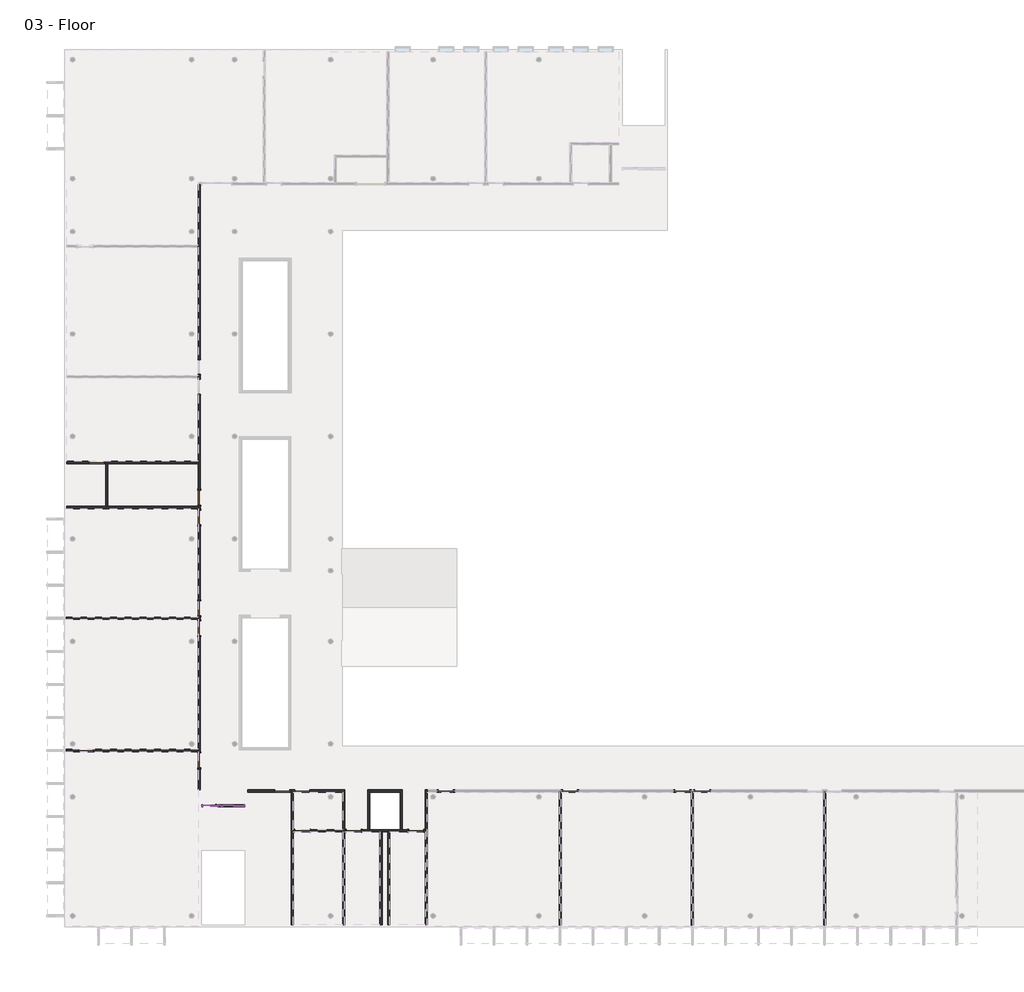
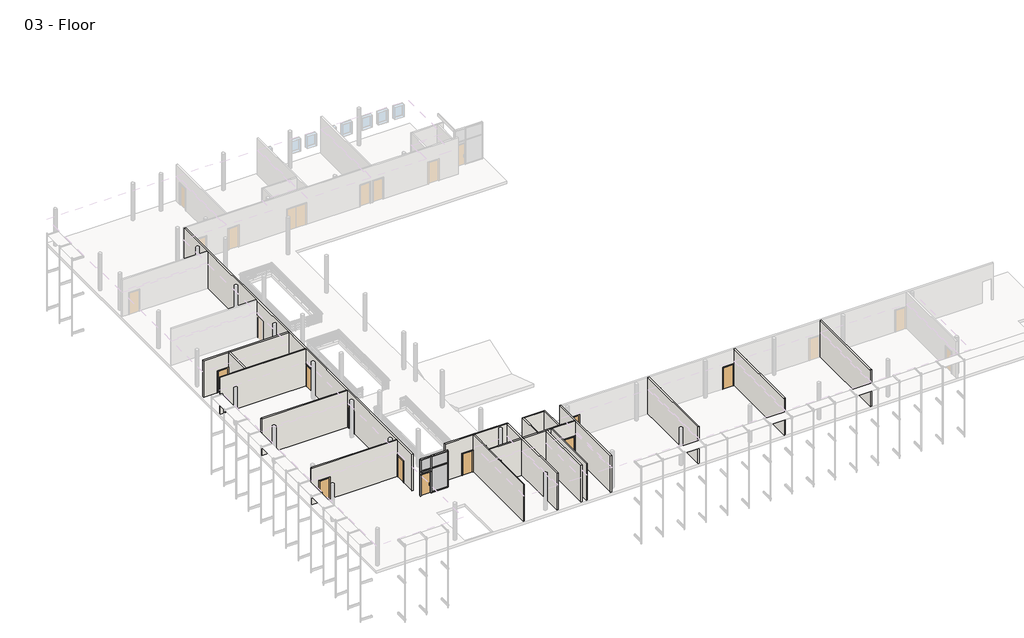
# One storey, part 1 of 4: 19 walls, 18 members, 17 doors, 4 plates.
"""IFC4 building model written with IfcOpenShell, lengths in millimetres."""

import ifcopenshell
import ifcopenshell.guid

model = None  # the IFC model being written
_history = None  # IfcOwnerHistory: only IFC2X3 demands one
_inside = {}  # id of a spatial element -> (the spatial element, [elements in it])
_under = {}  # id of a project, library or spatial element -> (it, [spatial elements below it])
_declared = {}  # id of a project -> (the project, [libraries it declares])
_typed = {}  # id of a type object -> (the type object, [elements of that type])
_made_of = {}  # id of a material, layer set ... -> (it, [elements and type objects made of it])


def new_model(schema):
    """Start an empty IFC model of exactly this schema.

    Asked for "IFC4X3", IfcOpenShell would pick the latest addendum, in which some entities
    have other attributes; the version numbers below select the first issue.
    IFC2X3 requires an IfcOwnerHistory on every rooted entity: one is made here for all.
    """
    global model, _history
    if schema == "IFC4X3":
        model = ifcopenshell.file(schema_version=(4, 3, 0, 0))
    else:
        model = ifcopenshell.file(schema=schema)
    _inside.clear()
    _under.clear()
    _declared.clear()
    _typed.clear()
    _made_of.clear()
    _history = None
    if model.schema == "IFC2X3":
        org = make("IfcOrganization", Name="unknown")
        user = make(
            "IfcPersonAndOrganization",
            ThePerson=make("IfcPerson", FamilyName="unknown"),
            TheOrganization=org,
        )
        app = make(
            "IfcApplication",
            ApplicationDeveloper=org,
            Version="unknown",
            ApplicationFullName="unknown",
            ApplicationIdentifier="unknown",
        )
        _history = make(
            "IfcOwnerHistory",
            OwningUser=user,
            OwningApplication=app,
            ChangeAction="ADDED",
            CreationDate=0,
        )
    return model


def make(cls, **values):
    """One entity of the class cls with the attributes given. An attribute that is None is left unset."""
    return model.create_entity(
        cls, **{name: value for name, value in values.items() if value is not None}
    )


def rooted(cls, **values):
    """An entity with a GlobalId (a new one), such as an element, a storey or a relation."""
    return make(cls, GlobalId=ifcopenshell.guid.new(), OwnerHistory=_history, **values)


def si_unit(unit_type, name, prefix=None):
    """IfcSIUnit, for example si_unit("LENGTHUNIT", "METRE", prefix="MILLI")."""
    return make("IfcSIUnit", UnitType=unit_type, Prefix=prefix, Name=name)


def assignment(units):
    """IfcUnitAssignment: the units of a project."""
    return None if units is None else make("IfcUnitAssignment", Units=units)


def point(xyz):
    """IfcCartesianPoint."""
    return None if xyz is None else make("IfcCartesianPoint", Coordinates=xyz)


def direction(xyz):
    """IfcDirection."""
    return None if xyz is None else make("IfcDirection", DirectionRatios=xyz)


def frame(location, z_axis=None, x_axis=None):
    """IfcAxis2Placement3D, a coordinate frame: its origin and axes. An axis left out is left unset."""
    return make(
        "IfcAxis2Placement3D",
        Location=point(location),
        Axis=direction(z_axis),
        RefDirection=direction(x_axis),
    )


def origin():
    """The frame at (0, 0, 0) with its axes left unset."""
    return frame((0.0, 0.0, 0.0))


def origin_with_axes():
    """The frame at (0, 0, 0) with the z axis (0, 0, 1) and the x axis (1, 0, 0) written out."""
    return frame((0.0, 0.0, 0.0), z_axis=(0.0, 0.0, 1.0), x_axis=(1.0, 0.0, 0.0))


def place(relative_to, where):
    """IfcLocalPlacement: puts the frame where relative to a parent placement (None: the world)."""
    return make(
        "IfcLocalPlacement", PlacementRelTo=relative_to, RelativePlacement=where
    )


def context(
    kind, dimensions, precision=None, world=None, true_north=None, identifier=None
):
    """IfcGeometricRepresentationContext, for example the 3D "Model" context."""
    return make(
        "IfcGeometricRepresentationContext",
        ContextIdentifier=identifier,
        ContextType=kind,
        CoordinateSpaceDimension=dimensions,
        Precision=precision,
        WorldCoordinateSystem=world,
        TrueNorth=true_north,
    )


def project(units=None, contexts=None):
    """IfcProject with its units and contexts."""
    return rooted(
        "IfcProject",
        Name="project",
        RepresentationContexts=contexts,
        UnitsInContext=assignment(units),
    )


def spatial(cls, under=None, at=None, **own):
    """A site, building, storey or space (cls), placed at a placement, below another one or the project."""
    s = rooted(cls, ObjectPlacement=at, **own)
    if under is not None:
        _under.setdefault(under.id(), (under, []))[1].append(s)
    return s


def polyline(points):
    """IfcPolyline through the points."""
    return make("IfcPolyline", Points=[point(p) for p in points])


def outline(outer, holes=None, kind="AREA"):
    """IfcArbitraryClosedProfileDef: a profile drawn as a closed curve; with holes, ...WithVoids."""
    if holes is None:
        return make("IfcArbitraryClosedProfileDef", ProfileType=kind, OuterCurve=outer)
    return make(
        "IfcArbitraryProfileDefWithVoids",
        ProfileType=kind,
        OuterCurve=outer,
        InnerCurves=holes,
    )


def extrude(swept, where, along, depth):
    """IfcExtrudedAreaSolid: the profile swept, set in the frame where, extruded along a direction by depth."""
    return make(
        "IfcExtrudedAreaSolid",
        SweptArea=swept,
        Position=where,
        ExtrudedDirection=direction(along),
        Depth=depth,
    )


def faces_of(points, faces, orient=None, outer=None):
    """IfcFace entities. A face is a list of loops; a loop is a list of indices into points, from 0.

    orient and outer hold one flag for each loop. By default every Orientation is true, the
    first loop of a face is its IfcFaceOuterBound and the others are IfcFaceBound.
    """
    made = []
    for i, loops in enumerate(faces):
        bounds = []
        for j, loop in enumerate(loops):
            is_outer = j == 0 if outer is None else outer[i][j]
            bounds.append(
                make(
                    "IfcFaceOuterBound" if is_outer else "IfcFaceBound",
                    Bound=make("IfcPolyLoop", Polygon=[points[k] for k in loop]),
                    Orientation=True if orient is None else orient[i][j],
                )
            )
        made.append(make("IfcFace", Bounds=bounds))
    return made


def faceted_brep(points, faces, orient=None, outer=None, voids=None):
    """IfcFacetedBrep: a solid bounded by flat faces; with voids (closed shells), ...WithVoids."""
    shared = [point(p) for p in points]
    hull = make("IfcClosedShell", CfsFaces=faces_of(shared, faces, orient, outer))
    if voids is None:
        return make("IfcFacetedBrep", Outer=hull)
    return make(
        "IfcFacetedBrepWithVoids",
        Outer=hull,
        Voids=[
            make(cls, CfsFaces=faces_of(shared, fs, o, b)) for cls, fs, o, b in voids
        ],
    )


def shape(context_of_items, identifier, shape_type, items):
    """IfcShapeRepresentation: the items that make up one representation, for example the "Body"."""
    return make(
        "IfcShapeRepresentation",
        ContextOfItems=context_of_items,
        RepresentationIdentifier=identifier,
        RepresentationType=shape_type,
        Items=items,
    )


def source(mapping_origin, context_of_items, identifier, shape_type, items):
    """IfcRepresentationMap: a shape defined once, which mapped items show again and again."""
    return make(
        "IfcRepresentationMap",
        MappingOrigin=mapping_origin,
        MappedRepresentation=shape(context_of_items, identifier, shape_type, items),
    )


def transform(
    local_origin,
    x_axis=None,
    y_axis=None,
    z_axis=None,
    scale=None,
    scale2=None,
    scale3=None,
    uniform=True,
):
    """IfcCartesianTransformationOperator3D, or its non-uniform kind. x_axis, y_axis, z_axis: its Axis1, 2, 3."""
    if uniform:
        return make(
            "IfcCartesianTransformationOperator3D",
            Axis1=direction(x_axis),
            Axis2=direction(y_axis),
            LocalOrigin=point(local_origin),
            Scale=scale,
            Axis3=direction(z_axis),
        )
    return make(
        "IfcCartesianTransformationOperator3DnonUniform",
        Axis1=direction(x_axis),
        Axis2=direction(y_axis),
        LocalOrigin=point(local_origin),
        Scale=scale,
        Axis3=direction(z_axis),
        Scale2=scale2,
        Scale3=scale3,
    )


def mapped(mapping_source, mapping_target):
    """IfcMappedItem: shows the shape of a source again, moved by a transform."""
    return make(
        "IfcMappedItem", MappingSource=mapping_source, MappingTarget=mapping_target
    )


def made_of(thing, what):
    """Note that an element or type object is made of a material, layer set ...; save() writes the relation."""
    if what is not None:
        _made_of.setdefault(what.id(), (what, []))[1].append(thing)
    return thing


def element(
    cls,
    number,
    at=None,
    inside=None,
    cuts=None,
    type_object=None,
    material=None,
    context=None,
    identifier="Body",
    shape_type=None,
    held_by="IfcProductDefinitionShape",
    body=None,
    shapes=None,
    **own,
):
    """One element of the class cls, such as IfcWall. Its Tag is "e" and its number.

    at: its placement. inside: the storey or other place that contains it. cuts: it is an
    opening in that element (IfcRelVoidsElement). A single representation is given by context,
    identifier, shape_type and body (its items); several are given by shapes. held_by: the class
    of the entity that holds the representations. save() writes the other relations.
    """
    e = rooted(cls, Tag="e%d" % number, ObjectPlacement=at, **own)
    if body is not None:
        shapes = [shape(context, identifier, shape_type, body)]
    if shapes is not None:
        e.Representation = make(held_by, Representations=shapes)
    if inside is not None:
        _inside.setdefault(inside.id(), (inside, []))[1].append(e)
    if cuts is not None:
        rooted(
            "IfcRelVoidsElement", RelatingBuildingElement=cuts, RelatedOpeningElement=e
        )
    if type_object is not None:
        _typed.setdefault(type_object.id(), (type_object, []))[1].append(e)
    return made_of(e, material)


def aggregate(whole, parts):
    """IfcRelAggregates: a whole, such as a stair, and the parts it consists of."""
    return rooted("IfcRelAggregates", RelatingObject=whole, RelatedObjects=parts)


def save(model, path):
    """Write the relations noted so far, then the file.

    IfcRelAggregates (storeys below a building ...), IfcRelContainedInSpatialStructure (elements
    in a storey), IfcRelDefinesByType, IfcRelAssociatesMaterial and IfcRelDeclares: one each for
    every whole, place, type object, material and project.
    """
    for whole, parts in _under.values():
        aggregate(whole, parts)
    for where, things in _inside.values():
        rooted(
            "IfcRelContainedInSpatialStructure",
            RelatedElements=things,
            RelatingStructure=where,
        )
    for kind, things in _typed.values():
        rooted("IfcRelDefinesByType", RelatedObjects=things, RelatingType=kind)
    for what, things in _made_of.values():
        rooted("IfcRelAssociatesMaterial", RelatedObjects=things, RelatingMaterial=what)
    for by, libraries in _declared.values():
        rooted("IfcRelDeclares", RelatingContext=by, RelatedDefinitions=libraries)
    model.write(path)


def curtain_wall_sgl_glass_curtain_wall_sgl_glass_c2d4b377(model_context):
    return source(origin(), model_context, "Body", "SweptSolid", [
        extrude(outline(polyline([(-355.6, 12.7), (-355.6, -38.1), (-381.0, -38.1), (-381.0, 12.7), (-355.6, 12.7)])), frame((0.0, 0.0, 762.0), z_axis=(0.0, 0.0, 1.0), x_axis=(1.0, 0.0, 0.0)), (0.0, 0.0, 1.0), 228.6),
        extrude(outline(polyline([(-381.0, -101.6), (-381.0, -50.8), (-355.6, -50.8), (-355.6, -101.6), (-381.0, -101.6)])), frame((0.0, 0.0, 762.0), z_axis=(0.0, 0.0, 1.0), x_axis=(1.0, 0.0, 0.0)), (0.0, 0.0, 1.0), 228.6),
        extrude(outline(polyline([(457.2, -50.8), (-457.2, -50.8), (-457.2, -38.1), (457.2, -38.1), (457.2, -50.8)])), origin_with_axes(), (0.0, 0.0, 1.0), 2133.6),
    ])


def door_a1797ceb(model_context):
    return source(origin(), model_context, "Body", "SweptSolid", [
        extrude(outline(polyline([(2209.8, -533.4), (0.0, -533.4), (0.0, -457.2), (2133.6, -457.2), (2133.6, 457.2), (0.0, 457.2), (0.0, 533.4), (2209.8, 533.4), (2209.8, -533.4)])), frame((0.0, 63.5, 0.0), z_axis=(0.0, 1.0, 0.0), x_axis=(0.0, 0.0, 1.0)), (0.0, 0.0, 1.0), 25.4),
        extrude(outline(polyline([(2209.8, 533.4), (2209.8, -533.4), (0.0, -533.4), (0.0, -457.2), (2133.6, -457.2), (2133.6, 457.2), (0.0, 457.2), (0.0, 533.4), (2209.8, 533.4)])), frame((0.0, -88.9, 0.0), z_axis=(0.0, 1.0, 0.0), x_axis=(0.0, 0.0, 1.0)), (0.0, 0.0, 1.0), 25.4),
        extrude(outline(polyline([(457.2, 12.7), (-457.2, 12.7), (-457.2, 63.5), (457.2, 63.5), (457.2, 12.7)])), origin_with_axes(), (0.0, 0.0, 1.0), 2133.6),
    ])


def door_a3eb833a(model_context):
    return source(origin(), model_context, "Body", "SweptSolid", [
        extrude(outline(polyline([(2209.8, -533.4), (0.0, -533.4), (0.0, -457.2), (2133.6, -457.2), (2133.6, 457.2), (0.0, 457.2), (0.0, 533.4), (2209.8, 533.4), (2209.8, -533.4)])), frame((0.0, -88.9, 0.0), z_axis=(0.0, 1.0, 0.0), x_axis=(0.0, 0.0, 1.0)), (0.0, 0.0, 1.0), 25.4),
        extrude(outline(polyline([(2209.8, 533.4), (2209.8, -533.4), (0.0, -533.4), (0.0, -457.2), (2133.6, -457.2), (2133.6, 457.2), (0.0, 457.2), (0.0, 533.4), (2209.8, 533.4)])), frame((0.0, 63.5, 0.0), z_axis=(0.0, 1.0, 0.0), x_axis=(0.0, 0.0, 1.0)), (0.0, 0.0, 1.0), 25.4),
        extrude(outline(polyline([(457.2, -12.7), (457.2, -63.5), (-457.2, -63.5), (-457.2, -12.7), (457.2, -12.7)])), origin_with_axes(), (0.0, 0.0, 1.0), 2133.6),
    ])


def member_2b49869a(model_context):
    return source(origin(), model_context, "Body", "SweptSolid", [
        extrude(outline(polyline([(31.75, 63.5), (31.75, -63.5), (-31.75, -63.5), (-31.75, 63.5), (31.75, 63.5)])), frame((0.0, 0.0, -1219.2), z_axis=(0.0, 0.0, 1.0), x_axis=(1.0, 0.0, 0.0)), (0.0, 0.0, 1.0), 1219.2),
    ])


def member_75074519(model_context):
    return source(origin(), model_context, "Body", "SweptSolid", [
        extrude(outline(polyline([(0.0, 63.5), (0.0, -63.5), (-63.5, -63.5), (-63.5, 63.5), (0.0, 63.5)])), frame((0.0, 0.0, -1219.2), z_axis=(0.0, 0.0, 1.0), x_axis=(1.0, 0.0, 0.0)), (0.0, 0.0, 1.0), 1219.2),
    ])


def member_6186cc23(model_context):
    return source(origin(), model_context, "Body", "SweptSolid", [
        extrude(outline(polyline([(31.75, 63.5), (31.75, -63.5), (-31.75, -63.5), (-31.75, 63.5), (31.75, 63.5)])), frame((0.0, 0.0, -2165.35), z_axis=(0.0, 0.0, 1.0), x_axis=(1.0, 0.0, 0.0)), (0.0, 0.0, 1.0), 2165.35),
    ])


def member_5d67b9fc(model_context):
    return source(origin(), model_context, "Body", "SweptSolid", [
        extrude(outline(polyline([(31.75, 63.5), (31.75, -63.5), (-31.75, -63.5), (-31.75, 63.5), (31.75, 63.5)])), frame((0.0, 0.0, -273.05), z_axis=(0.0, 0.0, 1.0), x_axis=(1.0, 0.0, 0.0)), (0.0, 0.0, 1.0), 273.05),
    ])


def member_c327c56d(model_context):
    return source(origin(), model_context, "Body", "SweptSolid", [
        extrude(outline(polyline([(0.0, 63.5), (0.0, -63.5), (-63.5, -63.5), (-63.5, 63.5), (0.0, 63.5)])), frame((0.0, 0.0, -273.05), z_axis=(0.0, 0.0, 1.0), x_axis=(1.0, 0.0, 0.0)), (0.0, 0.0, 1.0), 273.05),
    ])


def member_a50b3cda(model_context):
    return source(origin(), model_context, "Body", "SweptSolid", [
        extrude(outline(polyline([(0.0, 63.5), (0.0, -63.5), (-63.5, -63.5), (-63.5, 63.5), (0.0, 63.5)])), frame((0.0, 0.0, -2165.35), z_axis=(0.0, 0.0, 1.0), x_axis=(1.0, 0.0, 0.0)), (0.0, 0.0, 1.0), 2165.35),
    ])


def member_410c6227(model_context):
    return source(origin(), model_context, "Body", "SweptSolid", [
        extrude(outline(polyline([(31.75, 63.5), (31.75, -63.5), (-31.75, -63.5), (-31.75, 63.5), (31.75, 63.5)])), frame((0.0, 0.0, -914.4), z_axis=(0.0, 0.0, 1.0), x_axis=(1.0, 0.0, 0.0)), (0.0, 0.0, 1.0), 914.4),
    ])


def member_73c23c35(model_context):
    return source(origin(), model_context, "Body", "SweptSolid", [
        extrude(outline(polyline([(0.0, 63.5), (0.0, -63.5), (-63.5, -63.5), (-63.5, 63.5), (0.0, 63.5)])), frame((0.0, 0.0, -914.4), z_axis=(0.0, 0.0, 1.0), x_axis=(1.0, 0.0, 0.0)), (0.0, 0.0, 1.0), 914.4),
    ])


def member_bcb6a316(model_context):
    return source(origin(), model_context, "Body", "SweptSolid", [
        extrude(outline(polyline([(0.0, 63.5), (0.0, -63.5), (-63.5, -63.5), (-63.5, 63.5), (0.0, 63.5)])), frame((0.0, 0.0, -1257.3), z_axis=(0.0, 0.0, 1.0), x_axis=(1.0, 0.0, 0.0)), (0.0, 0.0, 1.0), 1257.3),
    ])


def member_d3323a85(model_context):
    return source(origin(), model_context, "Body", "SweptSolid", [
        extrude(outline(polyline([(0.0, 63.5), (0.0, -63.5), (-63.5, -63.5), (-63.5, 63.5), (0.0, 63.5)])), frame((0.0, 0.0, -279.4), z_axis=(0.0, 0.0, 1.0), x_axis=(1.0, 0.0, 0.0)), (0.0, 0.0, 1.0), 279.4),
    ])


def member_7bd2cd2c(model_context):
    return source(origin(), model_context, "Body", "SweptSolid", [
        extrude(outline(polyline([(31.75, 63.5), (31.75, -63.5), (-31.75, -63.5), (-31.75, 63.5), (31.75, 63.5)])), frame((0.0, 0.0, -1257.3), z_axis=(0.0, 0.0, 1.0), x_axis=(1.0, 0.0, 0.0)), (0.0, 0.0, 1.0), 1257.3),
    ])


def member_6be37683(model_context):
    return source(origin(), model_context, "Body", "SweptSolid", [
        extrude(outline(polyline([(31.75, 63.5), (31.75, -63.5), (-31.75, -63.5), (-31.75, 63.5), (31.75, 63.5)])), frame((0.0, 0.0, -279.4), z_axis=(0.0, 0.0, 1.0), x_axis=(1.0, 0.0, 0.0)), (0.0, 0.0, 1.0), 279.4),
    ])


def system_panel_glazed_8dc8626f(model_context):
    return source(origin(), model_context, "Body", "SweptSolid", [
        extrude(outline(polyline([(457.2, -44.45), (-457.2, -44.45), (-457.2, -19.05), (457.2, -19.05), (457.2, -44.45)])), origin_with_axes(), (0.0, 0.0, 1.0), 209.55),
    ])


def system_panel_glazed_2e5f6ce9(model_context):
    return source(origin(), model_context, "Body", "SweptSolid", [
        extrude(outline(polyline([(457.2, -44.45), (-457.2, -44.45), (-457.2, -19.05), (457.2, -19.05), (457.2, -44.45)])), origin_with_axes(), (0.0, 0.0, 1.0), 1123.95),
    ])


def system_panel_glazed_c516a964(model_context):
    return source(origin(), model_context, "Body", "SweptSolid", [
        extrude(outline(polyline([(0.0, -768.35), (0.0, 488.95), (0.0, 768.35), (2101.85, 768.35), (2343.15, 768.35), (2343.15, 488.95), (2343.15, -768.35), (2101.85, -768.35), (0.0, -768.35)])), frame((0.0, -44.45, 0.0), z_axis=(0.0, 1.0, 0.0), x_axis=(0.0, 0.0, 1.0)), (0.0, 0.0, 1.0), 25.4),
    ])


def system_panel_glazed_290e85bf(model_context):
    return source(origin(), model_context, "Body", "SweptSolid", [
        extrude(outline(polyline([(0.0, -768.35), (0.0, 488.95), (0.0, 768.35), (1123.95, 768.35), (1123.95, 488.95), (1123.95, -768.35), (0.0, -768.35)])), frame((0.0, -44.45, 0.0), z_axis=(0.0, 1.0, 0.0), x_axis=(0.0, 0.0, 1.0)), (0.0, 0.0, 1.0), 25.4),
    ])


model = new_model("IFC4")

# Units and contexts
model_context = context("Model", 3, world=origin())
ifc_project = project(units=[si_unit("LENGTHUNIT", "METRE", prefix="MILLI")], contexts=[model_context])

# Site, building, storey
site = spatial("IfcSite", under=ifc_project)
building = spatial("IfcBuilding", under=site)
storey = spatial("IfcBuildingStorey", under=building, Name="03 - Floor", Elevation=7315.2)

# Doors
placement = place(None, origin())
curtain_wall_sgl_glass_curtain_wall_sgl_glass_shape = curtain_wall_sgl_glass_curtain_wall_sgl_glass_c2d4b377(model_context)
element("IfcDoor", 1, ObjectType="Curtain Wall Sgl Glass : Curtain Wall Sgl Glass", at=placement, inside=storey, context=model_context, shape_type="MappedRepresentation", body=[
    mapped(curtain_wall_sgl_glass_curtain_wall_sgl_glass_shape, transform((9081.4207476, 7356.4, 7315.2), x_axis=(-1.0, 0.0, 0.0), y_axis=(0.0, -1.0, 0.0), z_axis=(0.0, 0.0, 1.0))),
])
door_shape = door_a1797ceb(model_context)
element("IfcDoor", 2, ObjectType="Single-Flush : 36\" x 84\"", at=placement, inside=storey, context=model_context, shape_type="MappedRepresentation", body=[
    mapped(door_shape, transform((14732.9207476, 5832.4, 7315.2), x_axis=(-1.0, 0.0, 0.0), y_axis=(0.0, -1.0, 0.0), z_axis=(0.0, 0.0, 1.0))),
])
element("IfcDoor", 3, ObjectType="Single-Flush : 36\" x 84\"", at=placement, inside=storey, context=model_context, shape_type="MappedRepresentation", body=[
    mapped(door_shape, transform((17907.9207476, 5832.4, 7315.2), x_axis=(-1.0, 0.0, 0.0), y_axis=(0.0, -1.0, 0.0), z_axis=(0.0, 0.0, 1.0))),
])
element("IfcDoor", 4, ObjectType="Single-Flush : 36\" x 84\"", at=placement, inside=storey, context=model_context, shape_type="MappedRepresentation", body=[
    mapped(door_shape, transform((8421.0207476, 25085.6, 7315.2), x_axis=(0.0, 1.0, 0.0), y_axis=(-1.0, 0.0, 0.0), z_axis=(0.0, 0.0, 1.0))),
])
element("IfcDoor", 5, ObjectType="Single-Flush : 36\" x 84\"", at=placement, inside=storey, context=model_context, shape_type="MappedRepresentation", body=[
    mapped(door_shape, transform((8421.0207476, 18278.4, 7315.2), x_axis=(0.0, 1.0, 0.0), y_axis=(-1.0, 0.0, 0.0), z_axis=(0.0, 0.0, 1.0))),
])
element("IfcDoor", 6, ObjectType="Single-Flush : 36\" x 84\"", at=placement, inside=storey, context=model_context, shape_type="MappedRepresentation", body=[
    mapped(door_shape, transform((1448.7207476, 10760.0, 7315.2), x_axis=(-1.0, 0.0, 0.0), y_axis=(0.0, -1.0, 0.0), z_axis=(0.0, 0.0, 1.0))),
])
element("IfcDoor", 7, ObjectType="Single-Flush : 36\" x 84\"", at=placement, inside=storey, context=model_context, shape_type="MappedRepresentation", body=[
    mapped(door_shape, transform((8421.0207476, 10150.4, 7315.2), x_axis=(0.0, 1.0, 0.0), y_axis=(-1.0, 0.0, 0.0), z_axis=(0.0, 0.0, 1.0))),
])
element("IfcDoor", 8, ObjectType="Single-Flush : 36\" x 84\"", at=placement, inside=storey, context=model_context, shape_type="MappedRepresentation", body=[
    mapped(door_shape, transform((14732.9207476, 8270.8, 7315.2), x_axis=(-1.0, 0.0, 0.0), y_axis=(0.0, -1.0, 0.0), z_axis=(0.0, 0.0, 1.0))),
])
element("IfcDoor", 9, ObjectType="Single-Flush : 36\" x 84\"", at=placement, inside=storey, context=model_context, shape_type="MappedRepresentation", body=[
    mapped(door_shape, transform((23572.1207476, 8270.8, 7315.2), x_axis=(-1.0, 0.0, 0.0), y_axis=(0.0, -1.0, 0.0), z_axis=(0.0, 0.0, 1.0))),
])
element("IfcDoor", 10, ObjectType="Single-Flush : 36\" x 84\"", at=placement, inside=storey, context=model_context, shape_type="MappedRepresentation", body=[
    mapped(door_shape, transform((31204.8207476, 8270.8, 7315.2), x_axis=(-1.0, 0.0, 0.0), y_axis=(0.0, -1.0, 0.0), z_axis=(0.0, 0.0, 1.0))),
])
element("IfcDoor", 11, ObjectType="Single-Flush : 36\" x 84\"", at=placement, inside=storey, context=model_context, shape_type="MappedRepresentation", body=[
    mapped(door_shape, transform((39332.8207476, 8270.8, 7315.2), x_axis=(-1.0, 0.0, 0.0), y_axis=(0.0, -1.0, 0.0), z_axis=(0.0, 0.0, 1.0))),
])
door_2_shape = door_a3eb833a(model_context)
element("IfcDoor", 12, ObjectType="Single-Flush : 36\" x 84\"", at=placement, inside=storey, context=model_context, shape_type="MappedRepresentation", body=[
    mapped(door_2_shape, transform((21743.3207476, 5832.4, 7315.2), x_axis=(1.0, 0.0, 0.0), y_axis=(0.0, 1.0, 0.0), z_axis=(0.0, 0.0, 1.0))),
])
element("IfcDoor", 13, ObjectType="Single-Flush : 36\" x 84\"", at=placement, inside=storey, context=model_context, shape_type="MappedRepresentation", body=[
    mapped(door_2_shape, transform((2109.1207476, 28463.8, 7315.2), x_axis=(1.0, 0.0, 0.0), y_axis=(0.0, 1.0, 0.0), z_axis=(0.0, 0.0, 1.0))),
])
element("IfcDoor", 14, ObjectType="Single-Flush : 36\" x 84\"", at=placement, inside=storey, context=model_context, shape_type="MappedRepresentation", body=[
    mapped(door_2_shape, transform((8421.0207476, 26304.8, 7315.2), x_axis=(0.0, -1.0, 0.0), y_axis=(1.0, 0.0, 0.0), z_axis=(0.0, 0.0, 1.0))),
])
element("IfcDoor", 15, ObjectType="Single-Flush : 36\" x 84\"", at=placement, inside=storey, context=model_context, shape_type="MappedRepresentation", body=[
    mapped(door_2_shape, transform((8421.0207476, 19497.6, 7315.2), x_axis=(0.0, -1.0, 0.0), y_axis=(1.0, 0.0, 0.0), z_axis=(0.0, 0.0, 1.0))),
])
element("IfcDoor", 16, ObjectType="Single-Flush : 36\" x 84\"", at=placement, inside=storey, context=model_context, shape_type="MappedRepresentation", body=[
    mapped(door_2_shape, transform((13513.7207476, 8270.8, 7315.2), x_axis=(1.0, 0.0, 0.0), y_axis=(0.0, 1.0, 0.0), z_axis=(0.0, 0.0, 1.0))),
])
element("IfcDoor", 17, ObjectType="Single-Flush : 36\" x 84\"", at=placement, inside=storey, context=model_context, shape_type="MappedRepresentation", body=[
    mapped(door_2_shape, transform((38113.6207476, 8270.8, 7315.2), x_axis=(1.0, 0.0, 0.0), y_axis=(0.0, 1.0, 0.0), z_axis=(0.0, 0.0, 1.0))),
])

# Members
member_shape = member_2b49869a(model_context)
element("IfcMember", 18, ObjectType="Rectangular Mullion : 2.5\" x 5\" rectangular", at=placement, inside=storey, context=model_context, shape_type="MappedRepresentation", body=[
    mapped(member_shape, transform((9570.3707476, 7356.4, 9753.6), x_axis=(-1.0, 0.0, 0.0), y_axis=(0.0, 1.0, 0.0), z_axis=(0.0, 0.0, -1.0))),
])
member_2_shape = member_75074519(model_context)
element("IfcMember", 19, ObjectType="Rectangular Mullion : 2.5\" x 5\" rectangular", at=placement, inside=storey, context=model_context, shape_type="MappedRepresentation", body=[
    mapped(member_2_shape, transform((11202.3207476, 7356.4, 10972.8), x_axis=(1.0, 0.0, 0.0), y_axis=(0.0, 1.0, 0.0), z_axis=(0.0, 0.0, 1.0))),
])
element("IfcMember", 20, ObjectType="Rectangular Mullion : 2.5\" x 5\" rectangular", at=placement, inside=storey, context=model_context, shape_type="MappedRepresentation", body=[
    mapped(member_2_shape, transform((8560.7207476, 7356.4, 9753.6), x_axis=(-1.0, 0.0, 0.0), y_axis=(0.0, 1.0, 0.0), z_axis=(0.0, 0.0, -1.0))),
])
member_3_shape = member_6186cc23(model_context)
element("IfcMember", 21, ObjectType="Rectangular Mullion : 2.5\" x 5\" rectangular", at=placement, inside=storey, context=model_context, shape_type="MappedRepresentation", body=[
    mapped(member_3_shape, transform((9570.3707476, 7356.4, 7315.2), x_axis=(-1.0, 0.0, 0.0), y_axis=(0.0, 1.0, 0.0), z_axis=(0.0, 0.0, -1.0))),
])
member_4_shape = member_5d67b9fc(model_context)
element("IfcMember", 22, ObjectType="Rectangular Mullion : 2.5\" x 5\" rectangular", at=placement, inside=storey, context=model_context, shape_type="MappedRepresentation", body=[
    mapped(member_4_shape, transform((9570.3707476, 7356.4, 9480.55), x_axis=(-1.0, 0.0, 0.0), y_axis=(0.0, 1.0, 0.0), z_axis=(0.0, 0.0, -1.0))),
])
member_5_shape = member_c327c56d(model_context)
element("IfcMember", 23, ObjectType="Rectangular Mullion : 2.5\" x 5\" rectangular", at=placement, inside=storey, context=model_context, shape_type="MappedRepresentation", body=[
    mapped(member_5_shape, transform((11202.3207476, 7356.4, 9753.6), x_axis=(1.0, 0.0, 0.0), y_axis=(0.0, 1.0, 0.0), z_axis=(0.0, 0.0, 1.0))),
])
member_6_shape = member_a50b3cda(model_context)
element("IfcMember", 24, ObjectType="Rectangular Mullion : 2.5\" x 5\" rectangular", at=placement, inside=storey, context=model_context, shape_type="MappedRepresentation", body=[
    mapped(member_6_shape, transform((11202.3207476, 7356.4, 9480.55), x_axis=(1.0, 0.0, 0.0), y_axis=(0.0, 1.0, 0.0), z_axis=(0.0, 0.0, 1.0))),
])
member_7_shape = member_410c6227(model_context)
element("IfcMember", 25, ObjectType="Rectangular Mullion : 2.5\" x 5\" rectangular", at=placement, inside=storey, context=model_context, shape_type="MappedRepresentation", body=[
    mapped(member_7_shape, transform((8624.2207476, 7356.4, 9753.6), x_axis=(0.0, 0.0, 1.0), y_axis=(0.0, 1.0, 0.0), z_axis=(-1.0, 0.0, 0.0))),
])
element("IfcMember", 26, ObjectType="Rectangular Mullion : 2.5\" x 5\" rectangular", at=placement, inside=storey, context=model_context, shape_type="MappedRepresentation", body=[
    mapped(member_7_shape, transform((8624.2207476, 7356.4, 9480.55), x_axis=(0.0, 0.0, 1.0), y_axis=(0.0, 1.0, 0.0), z_axis=(-1.0, 0.0, 0.0))),
])
member_8_shape = member_73c23c35(model_context)
element("IfcMember", 27, ObjectType="Rectangular Mullion : 2.5\" x 5\" rectangular", at=placement, inside=storey, context=model_context, shape_type="MappedRepresentation", body=[
    mapped(member_8_shape, transform((8624.2207476, 7356.4, 10972.8), x_axis=(0.0, 0.0, 1.0), y_axis=(0.0, 1.0, 0.0), z_axis=(-1.0, 0.0, 0.0))),
])
element("IfcMember", 28, ObjectType="Rectangular Mullion : 2.5\" x 5\" rectangular", at=placement, inside=storey, context=model_context, shape_type="MappedRepresentation", body=[
    mapped(member_6_shape, transform((8560.7207476, 7356.4, 7315.2), x_axis=(-1.0, 0.0, 0.0), y_axis=(0.0, 1.0, 0.0), z_axis=(0.0, 0.0, -1.0))),
])
element("IfcMember", 29, ObjectType="Rectangular Mullion : 2.5\" x 5\" rectangular", at=placement, inside=storey, context=model_context, shape_type="MappedRepresentation", body=[
    mapped(member_5_shape, transform((8560.7207476, 7356.4, 9480.55), x_axis=(-1.0, 0.0, 0.0), y_axis=(0.0, 1.0, 0.0), z_axis=(0.0, 0.0, -1.0))),
])
member_9_shape = member_bcb6a316(model_context)
element("IfcMember", 30, ObjectType="Rectangular Mullion : 2.5\" x 5\" rectangular", at=placement, inside=storey, context=model_context, shape_type="MappedRepresentation", body=[
    mapped(member_9_shape, transform((11138.8207476, 7356.4, 7315.2), x_axis=(0.0, 0.0, -1.0), y_axis=(0.0, 1.0, 0.0), z_axis=(1.0, 0.0, 0.0))),
])
member_10_shape = member_d3323a85(model_context)
element("IfcMember", 31, ObjectType="Rectangular Mullion : 2.5\" x 5\" rectangular", at=placement, inside=storey, context=model_context, shape_type="MappedRepresentation", body=[
    mapped(member_10_shape, transform((9881.5207476, 7356.4, 7315.2), x_axis=(0.0, 0.0, -1.0), y_axis=(0.0, 1.0, 0.0), z_axis=(1.0, 0.0, 0.0))),
])
member_11_shape = member_7bd2cd2c(model_context)
element("IfcMember", 32, ObjectType="Rectangular Mullion : 2.5\" x 5\" rectangular", at=placement, inside=storey, context=model_context, shape_type="MappedRepresentation", body=[
    mapped(member_11_shape, transform((9881.5207476, 7356.4, 9753.6), x_axis=(0.0, 0.0, 1.0), y_axis=(0.0, 1.0, 0.0), z_axis=(-1.0, 0.0, 0.0))),
])
member_12_shape = member_6be37683(model_context)
element("IfcMember", 33, ObjectType="Rectangular Mullion : 2.5\" x 5\" rectangular", at=placement, inside=storey, context=model_context, shape_type="MappedRepresentation", body=[
    mapped(member_12_shape, transform((9602.1207476, 7356.4, 9753.6), x_axis=(0.0, 0.0, 1.0), y_axis=(0.0, 1.0, 0.0), z_axis=(-1.0, 0.0, 0.0))),
])
element("IfcMember", 34, ObjectType="Rectangular Mullion : 2.5\" x 5\" rectangular", at=placement, inside=storey, context=model_context, shape_type="MappedRepresentation", body=[
    mapped(member_9_shape, transform((9881.5207476, 7356.4, 10972.8), x_axis=(0.0, 0.0, 1.0), y_axis=(0.0, 1.0, 0.0), z_axis=(-1.0, 0.0, 0.0))),
])
element("IfcMember", 35, ObjectType="Rectangular Mullion : 2.5\" x 5\" rectangular", at=placement, inside=storey, context=model_context, shape_type="MappedRepresentation", body=[
    mapped(member_10_shape, transform((9602.1207476, 7356.4, 10972.8), x_axis=(0.0, 0.0, 1.0), y_axis=(0.0, 1.0, 0.0), z_axis=(-1.0, 0.0, 0.0))),
])

# Plates
system_panel_glazed_shape = system_panel_glazed_8dc8626f(model_context)
element("IfcPlate", 36, ObjectType="System Panel : Glazed", at=placement, inside=storey, context=model_context, shape_type="MappedRepresentation", body=[
    mapped(system_panel_glazed_shape, transform((9081.4207476, 7356.4, 9512.3), x_axis=(-1.0, 0.0, 0.0), y_axis=(0.0, -1.0, 0.0), z_axis=(0.0, 0.0, 1.0))),
])
system_panel_glazed_2_shape = system_panel_glazed_2e5f6ce9(model_context)
element("IfcPlate", 37, ObjectType="System Panel : Glazed", at=placement, inside=storey, context=model_context, shape_type="MappedRepresentation", body=[
    mapped(system_panel_glazed_2_shape, transform((9081.4207476, 7356.4, 9785.35), x_axis=(-1.0, 0.0, 0.0), y_axis=(0.0, -1.0, 0.0), z_axis=(0.0, 0.0, 1.0))),
])
system_panel_glazed_3_shape = system_panel_glazed_c516a964(model_context)
element("IfcPlate", 38, ObjectType="System Panel : Glazed", at=placement, inside=storey, context=model_context, shape_type="MappedRepresentation", body=[
    mapped(system_panel_glazed_3_shape, transform((10370.4707476, 7356.4, 7378.7), x_axis=(-1.0, 0.0, 0.0), y_axis=(0.0, -1.0, 0.0), z_axis=(0.0, 0.0, 1.0))),
])
system_panel_glazed_4_shape = system_panel_glazed_290e85bf(model_context)
element("IfcPlate", 39, ObjectType="System Panel : Glazed", at=placement, inside=storey, context=model_context, shape_type="MappedRepresentation", body=[
    mapped(system_panel_glazed_4_shape, transform((10370.4707476, 7356.4, 9785.35), x_axis=(-1.0, 0.0, 0.0), y_axis=(0.0, -1.0, 0.0), z_axis=(0.0, 0.0, 1.0))),
])

# Walls
element("IfcWall", 40, ObjectType="Generic - 5\"", at=placement, inside=storey, context=model_context, shape_type="Brep", body=[
    faceted_brep([(8357.5207476, 17821.2, 7315.2), (8357.5207476, 10823.5, 7315.2), (8357.5207476, 10696.5, 7315.2), (8357.5207476, 10607.6, 7315.2), (8357.5207476, 10607.6, 9448.8), (8357.5207476, 9693.2, 9448.8), (8357.5207476, 9693.2, 7315.2), (8357.5207476, 8334.3, 7315.2), (8357.5207476, 8334.3, 10972.8), (8357.5207476, 10696.5, 10972.8), (8357.5207476, 10823.5, 10972.8), (8357.5207476, 18824.5, 10972.8), (8357.5207476, 18951.5, 10972.8), (8357.5207476, 25631.7, 10972.8), (8357.5207476, 25758.7, 10972.8), (8357.5207476, 28400.3, 10972.8), (8357.5207476, 28527.3, 10972.8), (8357.5207476, 33658.1, 10972.8), (8357.5207476, 33785.1, 10972.8), (8357.5207476, 41684.5, 10972.8), (8357.5207476, 41811.5, 10972.8), (8357.5207476, 45545.3, 10972.8), (8357.5207476, 45545.3, 7315.2), (8357.5207476, 41811.5, 7315.2), (8357.5207476, 41684.5, 7315.2), (8357.5207476, 34788.4, 7315.2), (8357.5207476, 34788.4, 9448.8), (8357.5207476, 33874.0, 9448.8), (8357.5207476, 33874.0, 7315.2), (8357.5207476, 33785.1, 7315.2), (8357.5207476, 33658.1, 7315.2), (8357.5207476, 33569.2, 7315.2), (8357.5207476, 33569.2, 9448.8), (8357.5207476, 32654.8, 9448.8), (8357.5207476, 32654.8, 7315.2), (8357.5207476, 28527.3, 7315.2), (8357.5207476, 28400.3, 7315.2), (8357.5207476, 26762.0, 7315.2), (8357.5207476, 26762.0, 9448.8), (8357.5207476, 25847.6, 9448.8), (8357.5207476, 25847.6, 7315.2), (8357.5207476, 25758.7, 7315.2), (8357.5207476, 25631.7, 7315.2), (8357.5207476, 25542.8, 7315.2), (8357.5207476, 25542.8, 9448.8), (8357.5207476, 24628.4, 9448.8), (8357.5207476, 24628.4, 7315.2), (8357.5207476, 19954.8, 7315.2), (8357.5207476, 19954.8, 9448.8), (8357.5207476, 19040.4, 9448.8), (8357.5207476, 19040.4, 7315.2), (8357.5207476, 18951.5, 7315.2), (8357.5207476, 18824.5, 7315.2), (8357.5207476, 18735.6, 7315.2), (8357.5207476, 18735.6, 9448.8), (8357.5207476, 17821.2, 9448.8), (8484.5207476, 10607.6, 9448.8), (8484.5207476, 10607.6, 7315.2), (8484.5207476, 17821.2, 7315.2), (8484.5207476, 17821.2, 9448.8), (8484.5207476, 18735.6, 9448.8), (8484.5207476, 18735.6, 7315.2), (8484.5207476, 19040.4, 7315.2), (8484.5207476, 19040.4, 9448.8), (8484.5207476, 19954.8, 9448.8), (8484.5207476, 19954.8, 7315.2), (8484.5207476, 24628.4, 7315.2), (8484.5207476, 24628.4, 9448.8), (8484.5207476, 25542.8, 9448.8), (8484.5207476, 25542.8, 7315.2), (8484.5207476, 25847.6, 7315.2), (8484.5207476, 25847.6, 9448.8), (8484.5207476, 26762.0, 9448.8), (8484.5207476, 26762.0, 7315.2), (8484.5207476, 32654.8, 7315.2), (8484.5207476, 32654.8, 9448.8), (8484.5207476, 33569.2, 9448.8), (8484.5207476, 33569.2, 7315.2), (8484.5207476, 33874.0, 7315.2), (8484.5207476, 33874.0, 9448.8), (8484.5207476, 34788.4, 9448.8), (8484.5207476, 34788.4, 7315.2), (8484.5207476, 45545.3, 7315.2), (8484.5207476, 45545.3, 10972.8), (8484.5207476, 8334.3, 10972.8), (8484.5207476, 8334.3, 7315.2), (8484.5207476, 9693.2, 7315.2), (8484.5207476, 9693.2, 9448.8)], [[[0, 1, 2, 3, 4, 5, 6, 7, 8, 9, 10, 11, 12, 13, 14, 15, 16, 17, 18, 19, 20, 21, 22, 23, 24, 25, 26, 27, 28, 29, 30, 31, 32, 33, 34, 35, 36, 37, 38, 39, 40, 41, 42, 43, 44, 45, 46, 47, 48, 49, 50, 51, 52, 53, 54, 55]], [[56, 57, 58, 59, 60, 61, 62, 63, 64, 65, 66, 67, 68, 69, 70, 71, 72, 73, 74, 75, 76, 77, 78, 79, 80, 81, 82, 83, 84, 85, 86, 87]], [[78, 77, 31, 30, 29, 28]], [[25, 24, 23, 22, 82, 81]], [[70, 69, 43, 42, 41, 40]], [[37, 36, 35, 34, 74, 73]], [[62, 61, 53, 52, 51, 50]], [[47, 46, 66, 65]], [[58, 57, 3, 2, 1, 0]], [[86, 85, 7, 6]], [[8, 7, 85, 84]], [[21, 20, 19, 18, 17, 16, 15, 14, 13, 12, 11, 10, 9, 8, 84, 83]], [[22, 21, 83, 82]], [[79, 78, 28, 27]], [[80, 79, 27, 26]], [[81, 80, 26, 25]], [[32, 31, 77, 76]], [[33, 32, 76, 75]], [[34, 33, 75, 74]], [[71, 70, 40, 39]], [[72, 71, 39, 38]], [[73, 72, 38, 37]], [[44, 43, 69, 68]], [[45, 44, 68, 67]], [[46, 45, 67, 66]], [[63, 62, 50, 49]], [[64, 63, 49, 48]], [[65, 64, 48, 47]], [[54, 53, 61, 60]], [[55, 54, 60, 59]], [[0, 55, 59, 58]], [[4, 3, 57, 56]], [[5, 4, 56, 87]], [[6, 5, 87, 86]]]),
])
element("IfcWall", 41, ObjectType="Generic - 5\"", at=placement, inside=storey, context=model_context, shape_type="Brep", body=[
    faceted_brep([(13970.9207476, 8207.3, 7315.2), (14059.8207476, 8207.3, 7315.2), (14186.8207476, 8207.3, 7315.2), (14275.7207476, 8207.3, 7315.2), (14275.7207476, 8207.3, 9448.8), (15190.1207476, 8207.3, 9448.8), (15190.1207476, 8207.3, 7315.2), (17234.8207476, 8207.3, 7315.2), (17361.8207476, 8207.3, 7315.2), (17361.8207476, 8207.3, 10972.8), (17234.8207476, 8207.3, 10972.8), (14186.8207476, 8207.3, 10972.8), (14059.8207476, 8207.3, 10972.8), (11405.5207476, 8207.3, 10972.8), (11405.5207476, 8207.3, 7315.2), (13056.5207476, 8207.3, 7315.2), (13056.5207476, 8207.3, 9448.8), (13970.9207476, 8207.3, 9448.8), (14275.7207476, 8334.3, 9448.8), (14275.7207476, 8334.3, 7315.2), (13970.9207476, 8334.3, 7315.2), (13970.9207476, 8334.3, 9448.8), (13056.5207476, 8334.3, 9448.8), (13056.5207476, 8334.3, 7315.2), (11405.5207476, 8334.3, 7315.2), (11405.5207476, 8334.3, 10972.8), (17361.8207476, 8334.3, 10972.8), (17361.8207476, 8334.3, 7315.2), (15190.1207476, 8334.3, 7315.2), (15190.1207476, 8334.3, 9448.8)], [[[0, 1, 2, 3, 4, 5, 6, 7, 8, 9, 10, 11, 12, 13, 14, 15, 16, 17]], [[18, 19, 20, 21, 22, 23, 24, 25, 26, 27, 28, 29]], [[20, 19, 3, 2, 1, 0]], [[15, 14, 24, 23]], [[28, 27, 8, 7, 6]], [[13, 12, 11, 10, 9, 26, 25]], [[9, 8, 27, 26]], [[14, 13, 25, 24]], [[21, 20, 0, 17]], [[22, 21, 17, 16]], [[23, 22, 16, 15]], [[4, 3, 19, 18]], [[5, 4, 18, 29]], [[6, 5, 29, 28]]]),
])
element("IfcWall", 42, ObjectType="Generic - 5\"", at=placement, inside=storey, context=model_context, shape_type="Brep", body=[
    faceted_brep([(14186.8207476, 53.9, 7315.2), (14186.8207476, 5768.9, 7315.2), (14186.8207476, 5895.9, 7315.2), (14186.8207476, 8207.3, 7315.2), (14186.8207476, 8207.3, 10972.8), (14186.8207476, 5895.9, 10972.8), (14186.8207476, 5768.9, 10972.8), (14186.8207476, 53.9, 10972.8), (14059.8207476, 53.9, 7315.2), (14059.8207476, 53.9, 10972.8), (14059.8207476, 8207.3, 10972.8), (14059.8207476, 8207.3, 7315.2)], [[[0, 1, 2, 3, 4, 5, 6, 7]], [[8, 9, 10, 11]], [[3, 2, 1, 0, 8, 11]], [[7, 6, 5, 4, 10, 9]], [[0, 7, 9, 8]], [[4, 3, 11, 10]]]),
])
element("IfcWall", 43, ObjectType="Generic - 5\"", at=placement, inside=storey, context=model_context, shape_type="Brep", body=[
    faceted_brep([(17361.8207476, 53.9, 7315.2), (17361.8207476, 5768.9, 7315.2), (17361.8207476, 5895.9, 7315.2), (17361.8207476, 8207.3, 7315.2), (17361.8207476, 8207.3, 10972.8), (17361.8207476, 5895.9, 10972.8), (17361.8207476, 5768.9, 10972.8), (17361.8207476, 53.9, 10972.8), (17234.8207476, 53.9, 7315.2), (17234.8207476, 53.9, 10972.8), (17234.8207476, 5768.9, 10972.8), (17234.8207476, 5895.9, 10972.8), (17234.8207476, 8207.3, 10972.8), (17234.8207476, 8207.3, 7315.2), (17234.8207476, 5895.9, 7315.2), (17234.8207476, 5768.9, 7315.2)], [[[0, 1, 2, 3, 4, 5, 6, 7]], [[8, 9, 10, 11, 12, 13, 14, 15]], [[3, 2, 1, 0, 8, 15, 14, 13]], [[7, 6, 5, 4, 12, 11, 10, 9]], [[0, 7, 9, 8]], [[4, 3, 13, 12]]]),
])
element("IfcWall", 44, ObjectType="Generic - 5\"", at=placement, inside=storey, context=model_context, shape_type="Brep", body=[
    faceted_brep([(14186.8207476, 5768.9, 10972.8), (14186.8207476, 5768.9, 7315.2), (14275.7207476, 5768.9, 7315.2), (14275.7207476, 5768.9, 9448.8), (15190.1207476, 5768.9, 9448.8), (15190.1207476, 5768.9, 7315.2), (17234.8207476, 5768.9, 7315.2), (17234.8207476, 5768.9, 10972.8), (14186.8207476, 5895.9, 7315.2), (14186.8207476, 5895.9, 10972.8), (17234.8207476, 5895.9, 10972.8), (17234.8207476, 5895.9, 7315.2), (15190.1207476, 5895.9, 7315.2), (15190.1207476, 5895.9, 9448.8), (14275.7207476, 5895.9, 9448.8), (14275.7207476, 5895.9, 7315.2)], [[[0, 1, 2, 3, 4, 5, 6, 7]], [[8, 9, 10, 11, 12, 13, 14, 15]], [[1, 8, 15, 2]], [[5, 12, 11, 6]], [[9, 0, 7, 10]], [[1, 0, 9, 8]], [[3, 2, 15, 14]], [[4, 3, 14, 13]], [[5, 4, 13, 12]], [[7, 6, 11, 10]]]),
    faceted_brep([(17450.7207476, 5768.9, 7315.2), (17450.7207476, 5768.9, 9448.8), (18365.1207476, 5768.9, 9448.8), (18365.1207476, 5768.9, 7315.2), (19520.8207476, 5768.9, 7315.2), (19647.8207476, 5768.9, 7315.2), (20003.4207476, 5768.9, 7315.2), (20130.4207476, 5768.9, 7315.2), (21286.1207476, 5768.9, 7315.2), (21286.1207476, 5768.9, 9448.8), (22200.5207476, 5768.9, 9448.8), (22200.5207476, 5768.9, 7315.2), (22302.1207476, 5768.9, 7315.2), (22302.1207476, 5768.9, 10972.8), (20130.4207476, 5768.9, 10972.8), (20003.4207476, 5768.9, 10972.8), (19647.8207476, 5768.9, 10972.8), (19520.8207476, 5768.9, 10972.8), (17361.8207476, 5768.9, 10972.8), (17361.8207476, 5768.9, 7315.2), (17450.7207476, 5895.9, 9448.8), (17450.7207476, 5895.9, 7315.2), (17361.8207476, 5895.9, 7315.2), (17361.8207476, 5895.9, 10972.8), (18758.8207476, 5895.9, 10972.8), (18885.8207476, 5895.9, 10972.8), (20765.4207476, 5895.9, 10972.8), (20892.4207476, 5895.9, 10972.8), (22302.1207476, 5895.9, 10972.8), (22302.1207476, 5895.9, 7315.2), (22200.5207476, 5895.9, 7315.2), (22200.5207476, 5895.9, 9448.8), (21286.1207476, 5895.9, 9448.8), (21286.1207476, 5895.9, 7315.2), (20892.4207476, 5895.9, 7315.2), (20765.4207476, 5895.9, 7315.2), (18885.8207476, 5895.9, 7315.2), (18758.8207476, 5895.9, 7315.2), (18365.1207476, 5895.9, 7315.2), (18365.1207476, 5895.9, 9448.8)], [[[0, 1, 2, 3, 4, 5, 6, 7, 8, 9, 10, 11, 12, 13, 14, 15, 16, 17, 18, 19]], [[20, 21, 22, 23, 24, 25, 26, 27, 28, 29, 30, 31, 32, 33, 34, 35, 36, 37, 38, 39]], [[21, 0, 19, 22]], [[3, 38, 37, 36, 35, 34, 33, 8, 7, 6, 5, 4]], [[11, 30, 29, 12]], [[13, 28, 27, 26, 25, 24, 23, 18, 17, 16, 15, 14]], [[1, 0, 21, 20]], [[2, 1, 20, 39]], [[3, 2, 39, 38]], [[31, 30, 11, 10]], [[32, 31, 10, 9]], [[33, 32, 9, 8]], [[13, 12, 29, 28]], [[19, 18, 23, 22]]]),
])
element("IfcWall", 45, ObjectType="Generic - 5\"", at=placement, inside=storey, context=model_context, shape_type="SweptSolid", body=[
    extrude(outline(polyline([(19520.8207476, 53.9), (19520.8207476, 5768.9), (19647.8207476, 5768.9), (19647.8207476, 53.9), (19520.8207476, 53.9)])), frame((0.0, 0.0, 7315.2), z_axis=(0.0, 0.0, 1.0), x_axis=(1.0, 0.0, 0.0)), (0.0, 0.0, 1.0), 3657.6),
])
element("IfcWall", 46, ObjectType="Generic - 5\"", at=placement, inside=storey, context=model_context, shape_type="SweptSolid", body=[
    extrude(outline(polyline([(20003.4207476, 53.9), (20003.4207476, 5768.9), (20130.4207476, 5768.9), (20130.4207476, 53.9), (20003.4207476, 53.9)])), frame((0.0, 0.0, 7315.2), z_axis=(0.0, 0.0, 1.0), x_axis=(1.0, 0.0, 0.0)), (0.0, 0.0, 1.0), 3657.6),
])
element("IfcWall", 47, ObjectType="Generic - 5\"", at=placement, inside=storey, context=model_context, shape_type="Brep", body=[
    faceted_brep([(18885.8207476, 5895.9, 7315.2), (18885.8207476, 8207.3, 7315.2), (18885.8207476, 8334.3, 7315.2), (18885.8207476, 8334.3, 10972.8), (18885.8207476, 8207.3, 10972.8), (18885.8207476, 5895.9, 10972.8), (18758.8207476, 5895.9, 7315.2), (18758.8207476, 5895.9, 10972.8), (18758.8207476, 8334.3, 10972.8), (18758.8207476, 8334.3, 7315.2)], [[[0, 1, 2, 3, 4, 5]], [[6, 7, 8, 9]], [[2, 1, 0, 6, 9]], [[5, 4, 3, 8, 7]], [[3, 2, 9, 8]], [[0, 5, 7, 6]]]),
])
element("IfcWall", 48, ObjectType="Generic - 5\"", at=placement, inside=storey, context=model_context, shape_type="Brep", body=[
    faceted_brep([(20892.4207476, 5895.9, 7315.2), (20892.4207476, 8334.3, 7315.2), (20892.4207476, 8334.3, 10972.8), (20892.4207476, 5895.9, 10972.8), (20765.4207476, 5895.9, 7315.2), (20765.4207476, 5895.9, 10972.8), (20765.4207476, 8207.3, 10972.8), (20765.4207476, 8334.3, 10972.8), (20765.4207476, 8334.3, 7315.2), (20765.4207476, 8207.3, 7315.2)], [[[0, 1, 2, 3]], [[4, 5, 6, 7, 8, 9]], [[1, 0, 4, 9, 8]], [[3, 2, 7, 6, 5]], [[2, 1, 8, 7]], [[0, 3, 5, 4]]]),
])
element("IfcWall", 49, ObjectType="Generic - 5\"", at=placement, inside=storey, context=model_context, shape_type="Brep", body=[
    faceted_brep([(22429.1207476, 53.9, 7315.2), (22429.1207476, 8207.3, 7315.2), (22429.1207476, 8334.3, 7315.2), (22429.1207476, 8334.3, 10972.8), (22429.1207476, 8207.3, 10972.8), (22429.1207476, 53.9, 10972.8), (22302.1207476, 53.9, 7315.2), (22302.1207476, 53.9, 10972.8), (22302.1207476, 5768.9, 10972.8), (22302.1207476, 5895.9, 10972.8), (22302.1207476, 8334.3, 10972.8), (22302.1207476, 8334.3, 7315.2), (22302.1207476, 5895.9, 7315.2), (22302.1207476, 5768.9, 7315.2)], [[[0, 1, 2, 3, 4, 5]], [[6, 7, 8, 9, 10, 11, 12, 13]], [[2, 1, 0, 6, 13, 12, 11]], [[5, 4, 3, 10, 9, 8, 7]], [[3, 2, 11, 10]], [[0, 5, 7, 6]]]),
])
element("IfcWall", 50, ObjectType="Generic - 5\"", at=placement, inside=storey, context=model_context, shape_type="SweptSolid", body=[
    extrude(outline(polyline([(20765.4207476, 8207.3), (18885.8207476, 8207.3), (18885.8207476, 8334.3), (20765.4207476, 8334.3), (20765.4207476, 8207.3)])), frame((0.0, 0.0, 7315.2), z_axis=(0.0, 0.0, 1.0), x_axis=(1.0, 0.0, 0.0)), (0.0, 0.0, 1.0), 3657.6),
])
element("IfcWall", 51, ObjectType="Generic - 5\"", at=placement, inside=storey, context=model_context, shape_type="Brep", body=[
    faceted_brep([(280.3207476, 25631.7, 7315.2), (8357.5207476, 25631.7, 7315.2), (8357.5207476, 25631.7, 10972.8), (280.3207476, 25631.7, 10972.8), (280.3207476, 25758.7, 7315.2), (280.3207476, 25758.7, 10972.8), (2655.2207476, 25758.7, 10972.8), (2782.2207476, 25758.7, 10972.8), (8357.5207476, 25758.7, 10972.8), (8357.5207476, 25758.7, 7315.2), (2782.2207476, 25758.7, 7315.2), (2655.2207476, 25758.7, 7315.2)], [[[0, 1, 2, 3]], [[4, 5, 6, 7, 8, 9, 10, 11]], [[1, 0, 4, 11, 10, 9]], [[0, 3, 5, 4]], [[2, 1, 9, 8]], [[3, 2, 8, 7, 6, 5]]]),
])
element("IfcWall", 52, ObjectType="Generic - 5\"", at=placement, inside=storey, context=model_context, shape_type="SweptSolid", body=[
    extrude(outline(polyline([(7315.2, 242.2207476), (7315.2, 8357.5207476), (10972.8, 8357.5207476), (10972.8, 280.3207476), (10972.8, 242.2207476), (7315.2, 242.2207476)])), frame((0.0, 18824.5, 0.0), z_axis=(0.0, 1.0, 0.0), x_axis=(0.0, 0.0, 1.0)), (0.0, 0.0, 1.0), 127.0),
])
element("IfcWall", 53, ObjectType="Generic - 5\"", at=placement, inside=storey, context=model_context, shape_type="SweptSolid", body=[
    extrude(outline(polyline([(7315.2, 242.2207476), (7315.2, 991.5207476), (9448.8, 991.5207476), (9448.8, 1905.9207476), (7315.2, 1905.9207476), (7315.2, 8357.5207476), (10972.8, 8357.5207476), (10972.8, 280.3207476), (10972.8, 242.2207476), (7315.2, 242.2207476)])), frame((0.0, 10696.5, 0.0), z_axis=(0.0, 1.0, 0.0), x_axis=(0.0, 0.0, 1.0)), (0.0, 0.0, 1.0), 127.0),
])
element("IfcWall", 54, ObjectType="Generic - 5\"", at=placement, inside=storey, context=model_context, shape_type="Brep", body=[
    faceted_brep([(2566.3207476, 28400.3, 9448.8), (2566.3207476, 28400.3, 7315.2), (2655.2207476, 28400.3, 7315.2), (2782.2207476, 28400.3, 7315.2), (8357.5207476, 28400.3, 7315.2), (8357.5207476, 28400.3, 10972.8), (2782.2207476, 28400.3, 10972.8), (2655.2207476, 28400.3, 10972.8), (280.3207476, 28400.3, 10972.8), (280.3207476, 28400.3, 7315.2), (1651.9207476, 28400.3, 7315.2), (1651.9207476, 28400.3, 9448.8), (8357.5207476, 28527.3, 7315.2), (2566.3207476, 28527.3, 7315.2), (2566.3207476, 28527.3, 9448.8), (1651.9207476, 28527.3, 9448.8), (1651.9207476, 28527.3, 7315.2), (280.3207476, 28527.3, 7315.2), (280.3207476, 28527.3, 10972.8), (8357.5207476, 28527.3, 10972.8)], [[[0, 1, 2, 3, 4, 5, 6, 7, 8, 9, 10, 11]], [[12, 13, 14, 15, 16, 17, 18, 19]], [[4, 3, 2, 1, 13, 12]], [[10, 9, 17, 16]], [[9, 8, 18, 17]], [[5, 4, 12, 19]], [[8, 7, 6, 5, 19, 18]], [[14, 13, 1, 0]], [[15, 14, 0, 11]], [[16, 15, 11, 10]]]),
])
element("IfcWall", 55, ObjectType="Generic - 5\"", at=placement, inside=storey, context=model_context, shape_type="SweptSolid", body=[
    extrude(outline(polyline([(2782.2207476, 28400.3), (2782.2207476, 25758.7), (2655.2207476, 25758.7), (2655.2207476, 28400.3), (2782.2207476, 28400.3)])), frame((0.0, 0.0, 7315.2), z_axis=(0.0, 0.0, 1.0), x_axis=(1.0, 0.0, 0.0)), (0.0, 0.0, 1.0), 3657.6),
])
element("IfcWall", 56, ObjectType="Generic - 5\"", at=placement, inside=storey, context=model_context, shape_type="SweptSolid", body=[
    extrude(outline(polyline([(15.8, 7315.2), (15.8, 10972.8), (53.9, 10972.8), (8207.3, 10972.8), (8207.3, 7315.2), (15.8, 7315.2)])), frame((46787.7207476, 0.0, 0.0), z_axis=(1.0, 0.0, 0.0), x_axis=(0.0, 1.0, 0.0)), (0.0, 0.0, 1.0), 127.0),
])
element("IfcWall", 57, ObjectType="Generic - 5\"", at=placement, inside=storey, context=model_context, shape_type="SweptSolid", body=[
    extrude(outline(polyline([(15.8, 7315.2), (15.8, 10972.8), (53.9, 10972.8), (8207.3, 10972.8), (8207.3, 7315.2), (15.8, 7315.2)])), frame((38659.7207476, 0.0, 0.0), z_axis=(1.0, 0.0, 0.0), x_axis=(0.0, 1.0, 0.0)), (0.0, 0.0, 1.0), 127.0),
])
element("IfcWall", 58, ObjectType="Generic - 5\"", at=placement, inside=storey, context=model_context, shape_type="SweptSolid", body=[
    extrude(outline(polyline([(15.8, 7315.2), (15.8, 10972.8), (53.9, 10972.8), (8207.3, 10972.8), (8207.3, 7315.2), (15.8, 7315.2)])), frame((30531.7207476, 0.0, 0.0), z_axis=(1.0, 0.0, 0.0), x_axis=(0.0, 1.0, 0.0)), (0.0, 0.0, 1.0), 127.0),
])

save(model, "model.ifc")
